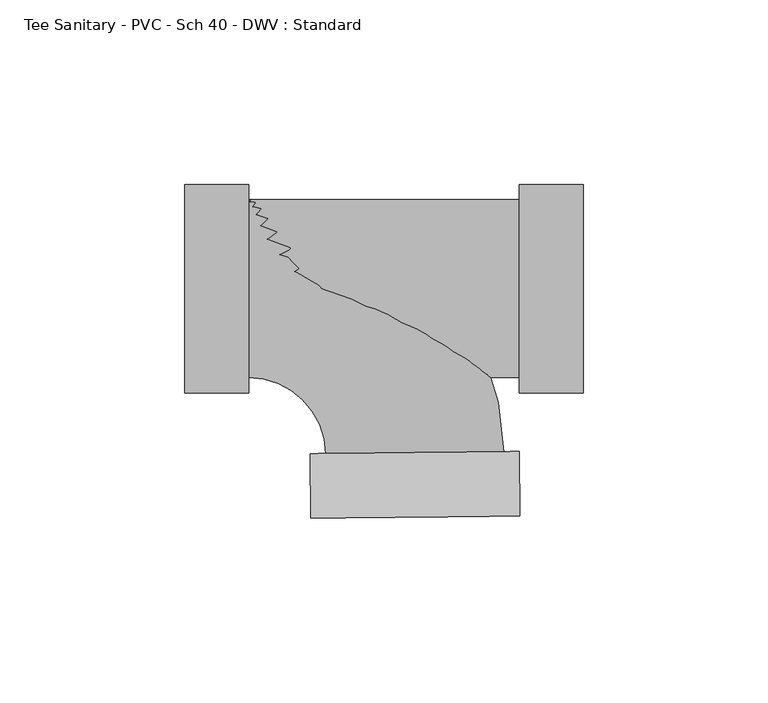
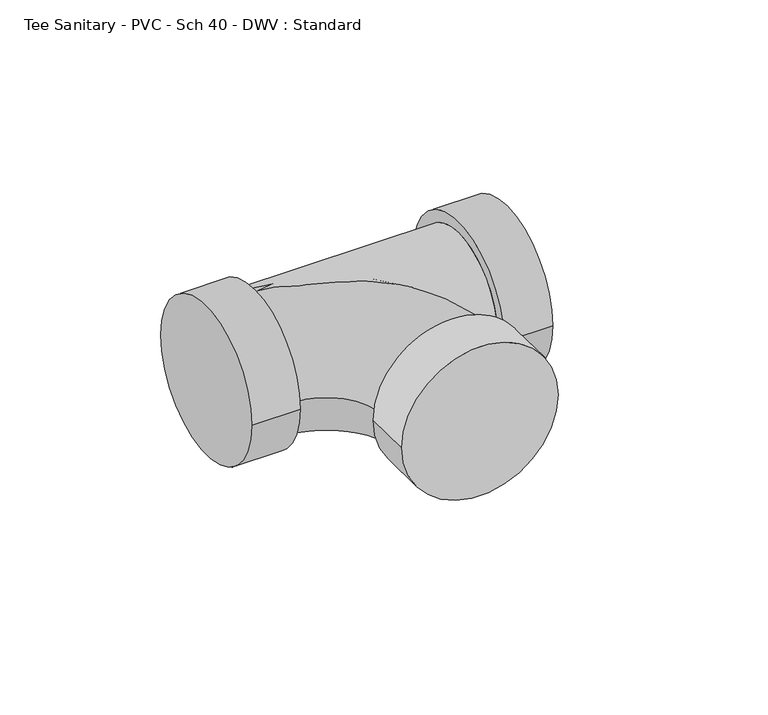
"""IFC4 building model written with IfcOpenShell, lengths in millimetres: pipe fitting geometry, Tee Sanitary - PVC - Sch 40 - DWV : Standard."""

from ifc_helpers import new_model, si_unit, point, frame, origin, place, context, project, spatial, circle_curve, ellipse_curve, trimmed, source, transform, mapped, element, save
from ifc_brep_helpers import plane_surface, cylinder_surface, revolved_surface, advanced_brep


def tee_sanitary_pvc_sch_40_dwv_standard_ad422280(model_context):
    return source(origin(), model_context, "Body", "AdvancedBrep", [
        advanced_brep(
        [(-44.45, -24.13, 0.0), (-44.45, 24.13, 0.0), (-23.6656953, -44.6989292, 0.0), (24.5916867, -44.1962481, 0.0), (28.9261203, -61.6018444, 0.0), (-27.6366111, -62.1910396, 0.0), (28.7443614, -44.1529911, 0.0), (-27.81837, -44.7421862, 0.0)],
        [
            (0, 1, circle_curve(frame((-44.45, 0.0, 0.0), z_axis=(-1.0, 0.0, 0.0), x_axis=(0.0, 1.0, 0.0)), 24.13)),
            (1, 0, circle_curve(frame((-44.45, 0.0, 0.0), z_axis=(-1.0, 0.0, 0.0), x_axis=(0.0, 1.0, 0.0)), 24.13)),
            (0, 2, circle_curve(frame((-44.45, -44.9154323, 0.0), z_axis=(0.0, 0.0, -1.0), x_axis=(0.0, 1.0, 0.0)), 20.7854323)),
            (2, 3, circle_curve(frame((0.4629957, -44.4475886, 0.0), z_axis=(-0.010416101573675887, 0.9999457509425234, 0.0), x_axis=(0.9999457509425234, 0.010416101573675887, 0.0)), 24.13)),
            (3, 1, circle_curve(frame((-44.45, -44.9154323, 0.0), z_axis=(0.0, 0.0, 1.0), x_axis=(0.0, 1.0, 0.0)), 69.0454323)),
            (3, 2, circle_curve(frame((0.4629957, -44.4475886, 0.0), z_axis=(-0.01041610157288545, 0.9999457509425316, 0.0), x_axis=(0.9999457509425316, 0.01041610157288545, 0.0)), 24.13)),
            (4, 5, circle_curve(frame((0.6447546, -61.896442, 0.0), z_axis=(0.010416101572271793, -0.999945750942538, 0.0), x_axis=(-0.999945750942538, -0.010416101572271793, 0.0)), 28.2829)),
            (5, 4, circle_curve(frame((0.6447546, -61.896442, 0.0), z_axis=(0.010416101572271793, -0.999945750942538, 0.0), x_axis=(-0.999945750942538, -0.010416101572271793, 0.0)), 28.2829)),
            (6, 7, circle_curve(frame((0.4629957, -44.4475886, 0.0), z_axis=(-0.010416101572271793, 0.999945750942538, 0.0), x_axis=(-0.999945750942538, -0.010416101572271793, 0.0)), 28.2829)),
            (7, 6, circle_curve(frame((0.4629957, -44.4475886, 0.0), z_axis=(-0.010416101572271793, 0.999945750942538, 0.0), x_axis=(-0.999945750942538, -0.010416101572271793, 0.0)), 28.2829)),
            (4, 6),
            (7, 5),
        ],
        [
            plane_surface(frame((-44.45, 0.0, 0.0), z_axis=(-1.0, 0.0, 0.0), x_axis=(0.0, 0.0, 1.0))),
            revolved_surface(trimmed(ellipse_curve(frame((-44.45, 0.0, 0.0), z_axis=(-1.0, 0.0, 0.0), x_axis=(0.0, 1.0, 0.0)), 24.13, 24.13), [point((-44.45, -24.13, 0.0))], [point((-44.45, 24.13, 0.0))], True, "CARTESIAN"), (-44.45, -44.9154323, 0.0), (0.0, 0.0, -1.0)),
            revolved_surface(trimmed(ellipse_curve(frame((-44.45, 0.0, 0.0), z_axis=(-1.0, 0.0, 0.0), x_axis=(0.0, 1.0, 0.0)), 24.13, 24.13), [point((-44.45, 24.13, 0.0))], [point((-44.45, -24.13, 0.0))], True, "CARTESIAN"), (-44.45, -44.9154323, 0.0), (0.0, 0.0, -1.0)),
            plane_surface(frame((0.6447546, -61.896442, 0.0), z_axis=(0.010416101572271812, -0.999945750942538, 0.0), x_axis=(0.0, 0.0, 1.0))),
            plane_surface(frame((0.4629957, -44.4475886, 0.0), z_axis=(-0.010416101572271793, 0.999945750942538, 0.0), x_axis=(0.0, 0.0, 1.0))),
            cylinder_surface(frame((0.6447546, -61.896442, 0.0), z_axis=(0.010416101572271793, -0.999945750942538, 0.0), x_axis=(-0.999945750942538, -0.010416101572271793, 0.0)), 28.2829),
        ],
        [
            (0, [[1, 2]]),
            (1, [[-1, 3, 4, 5]]),
            (2, [[-2, -5, 6, -3]]),
            (3, [[7, 8]]),
            (4, [[9, 10], [-4, -6]]),
            (5, [[-7, 11, -10, 12]]),
            (5, [[-8, -12, -9, -11]]),
        ],
    ),
        advanced_brep(
        [(-44.45, -24.13, 0.0), (28.7443614, -24.13, 0.0), (28.7443614, 24.13, 0.0), (-44.45, 24.13, 0.0), (28.7443614, -28.2829, 0.0), (28.7443614, 28.2829, 0.0), (46.1941614, -28.2829, 0.0), (46.1941614, 28.2829, 0.0), (-61.8998, -28.2829, 0.0), (-61.8998, 28.2829, 0.0), (-44.45, -28.2829, 0.0), (-44.45, 28.2829, 0.0)],
        [
            (0, 1),
            (1, 2, circle_curve(frame((28.7443614, 0.0, 0.0), z_axis=(-1.0, 0.0, 0.0), x_axis=(0.0, 1.0, 0.0)), 24.13)),
            (2, 3),
            (3, 0, circle_curve(frame((-44.45, 0.0, 0.0), z_axis=(1.0, 0.0, 0.0), x_axis=(0.0, 1.0, 0.0)), 24.13)),
            (0, 3, circle_curve(frame((-44.45, 0.0, 0.0), z_axis=(1.0, 0.0, 0.0), x_axis=(0.0, 1.0, 0.0)), 24.13)),
            (2, 1, circle_curve(frame((28.7443614, 0.0, 0.0), z_axis=(-1.0, 0.0, 0.0), x_axis=(0.0, 1.0, 0.0)), 24.13)),
            (4, 5, circle_curve(frame((28.7443614, 0.0, 0.0), z_axis=(-1.0, 0.0, 0.0), x_axis=(0.0, 1.0, 0.0)), 28.2829)),
            (5, 4, circle_curve(frame((28.7443614, 0.0, 0.0), z_axis=(-1.0, 0.0, 0.0), x_axis=(0.0, 1.0, 0.0)), 28.2829)),
            (6, 7, circle_curve(frame((46.1941614, 0.0, 0.0), z_axis=(1.0, 0.0, 0.0), x_axis=(0.0, 1.0, 0.0)), 28.2829)),
            (7, 6, circle_curve(frame((46.1941614, 0.0, 0.0), z_axis=(1.0, 0.0, 0.0), x_axis=(0.0, 1.0, 0.0)), 28.2829)),
            (4, 6),
            (7, 5),
            (8, 9, circle_curve(frame((-61.8998, 0.0, 0.0), z_axis=(-1.0, 0.0, 0.0), x_axis=(0.0, 1.0, 0.0)), 28.2829)),
            (9, 8, circle_curve(frame((-61.8998, 0.0, 0.0), z_axis=(-1.0, 0.0, 0.0), x_axis=(0.0, 1.0, 0.0)), 28.2829)),
            (10, 11, circle_curve(frame((-44.45, 0.0, 0.0), z_axis=(1.0, 0.0, 0.0), x_axis=(0.0, 1.0, 0.0)), 28.2829)),
            (11, 10, circle_curve(frame((-44.45, 0.0, 0.0), z_axis=(1.0, 0.0, 0.0), x_axis=(0.0, 1.0, 0.0)), 28.2829)),
            (8, 10),
            (11, 9),
        ],
        [
            cylinder_surface(frame((-44.45, 0.0, 0.0), z_axis=(-1.0, 0.0, 0.0), x_axis=(0.0, 1.0, 0.0)), 24.13),
            plane_surface(frame((28.7443614, 0.0, 0.0), z_axis=(-1.0, 0.0, 0.0), x_axis=(0.0, 0.0, 1.0))),
            plane_surface(frame((46.1941614, 0.0, 0.0), z_axis=(1.0, 0.0, 0.0), x_axis=(0.0, 0.0, 1.0))),
            cylinder_surface(frame((28.7443614, 0.0, 0.0), z_axis=(-1.0, 0.0, 0.0), x_axis=(0.0, 1.0, 0.0)), 28.2829),
            plane_surface(frame((-61.8998, 0.0, 0.0), z_axis=(-1.0, 0.0, 0.0), x_axis=(0.0, 0.0, 1.0))),
            plane_surface(frame((-44.45, 0.0, 0.0), z_axis=(1.0, 0.0, 0.0), x_axis=(0.0, 0.0, 1.0))),
            cylinder_surface(frame((-61.8998, 0.0, 0.0), z_axis=(-1.0, 0.0, 0.0), x_axis=(0.0, 1.0, 0.0)), 28.2829),
        ],
        [
            (0, [[1, 2, 3, 4]]),
            (0, [[-1, 5, -3, 6]]),
            (1, [[7, 8], [-2, -6]]),
            (2, [[9, 10]]),
            (3, [[-7, 11, -10, 12]]),
            (3, [[-8, -12, -9, -11]]),
            (4, [[13, 14]]),
            (5, [[15, 16], [-4, -5]]),
            (6, [[-13, 17, -16, 18]]),
            (6, [[-14, -18, -15, -17]]),
        ],
    ),
    ])


if __name__ == "__main__":
    model = new_model("IFC4")
    model_context = context("Model", 3, world=origin())
    ifc_project = project(units=[si_unit("LENGTHUNIT", "METRE", prefix="MILLI")], contexts=[model_context])
    site = spatial("IfcSite", under=ifc_project)
    building = spatial("IfcBuilding", under=site)
    placement = place(None, origin())
    tee_sanitary_pvc_sch_40_dwv_standard_shape = tee_sanitary_pvc_sch_40_dwv_standard_ad422280(model_context)
    element("IfcPipeFitting", 1, ObjectType="Tee Sanitary - PVC - Sch 40 - DWV : Standard", at=placement, inside=building, context=model_context, shape_type="MappedRepresentation", body=[
        mapped(tee_sanitary_pvc_sch_40_dwv_standard_shape, transform((0.0, 0.0, 0.0), x_axis=(1.0, 0.0, 0.0), y_axis=(0.0, 1.0, 0.0), z_axis=(0.0, 0.0, 1.0))),
    ])
    save(model, "model.ifc")
